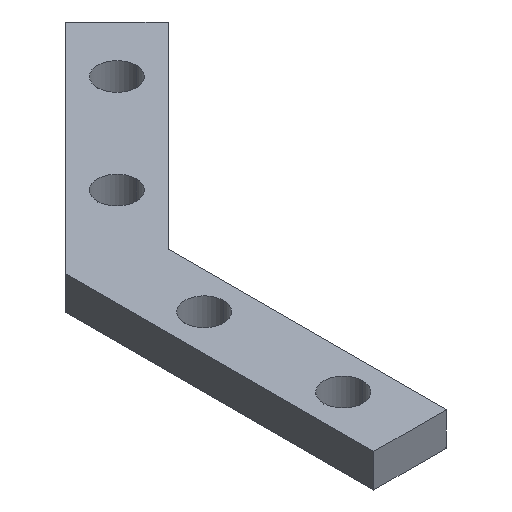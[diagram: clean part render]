
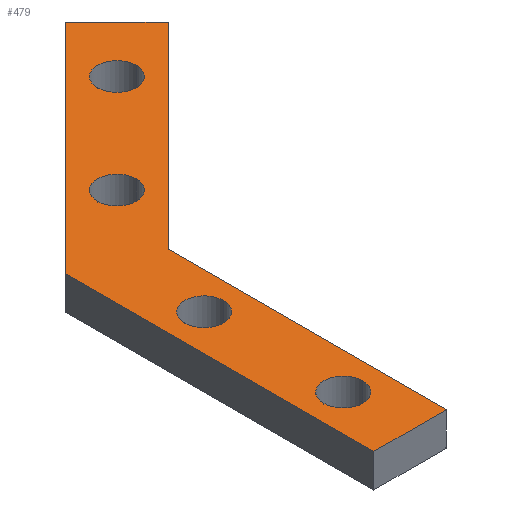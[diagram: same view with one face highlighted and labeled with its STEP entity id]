
A CAD part, isometric view. The second image highlights one B-rep face of the part: STEP entity #479.
In plain terms, the highlighted planar face has unit normal (0, 0, 1).
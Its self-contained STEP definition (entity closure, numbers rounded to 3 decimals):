
#3 = CIRCLE ( 'NONE', #210, 3.5 ) ;
#6 = DIRECTION ( 'NONE',  ( -0.707, 0.707, 0. ) ) ;
#17 = LINE ( 'NONE', #421, #113 ) ;
#22 = EDGE_LOOP ( 'NONE', ( #530, #434 ) ) ;
#25 = CARTESIAN_POINT ( 'NONE',  ( 25.274, 81.466, 6. ) ) ;
#26 = ORIENTED_EDGE ( 'NONE', *, *, #106, .F. ) ;
#27 = EDGE_CURVE ( 'NONE', #224, #63, #497, .T. ) ;
#28 = VERTEX_POINT ( 'NONE', #228 ) ;
#33 = CARTESIAN_POINT ( 'NONE',  ( 28.774, 81.466, 6. ) ) ;
#36 = CIRCLE ( 'NONE', #429, 3.5 ) ;
#45 = CARTESIAN_POINT ( 'NONE',  ( -6.5, 0., 6. ) ) ;
#46 = ORIENTED_EDGE ( 'NONE', *, *, #192, .F. ) ;
#47 = DIRECTION ( 'NONE',  ( 0., 0., 1. ) ) ;
#48 = FACE_BOUND ( 'NONE', #446, .T. ) ;
#50 = CARTESIAN_POINT ( 'NONE',  ( 0., 12., 6. ) ) ;
#63 = VERTEX_POINT ( 'NONE', #185 ) ;
#66 = AXIS2_PLACEMENT_3D ( 'NONE', #515, #247, #126 ) ;
#70 = CARTESIAN_POINT ( 'NONE',  ( -6.5, 0., 6. ) ) ;
#71 = DIRECTION ( 'NONE',  ( 0., 0., 1. ) ) ;
#77 = EDGE_CURVE ( 'NONE', #125, #224, #540, .T. ) ;
#89 = CARTESIAN_POINT ( 'NONE',  ( -6.5, 55.385, 6. ) ) ;
#92 = DIRECTION ( 'NONE',  ( 1., 0., 0. ) ) ;
#93 = ORIENTED_EDGE ( 'NONE', *, *, #204, .F. ) ;
#94 = DIRECTION ( 'NONE',  ( -0.707, -0.707, 0. ) ) ;
#100 = CIRCLE ( 'NONE', #536, 3.5 ) ;
#101 = VERTEX_POINT ( 'NONE', #284 ) ;
#106 = EDGE_CURVE ( 'NONE', #28, #535, #3, .T. ) ;
#113 = VECTOR ( 'NONE', #6, 1000. ) ;
#114 = DIRECTION ( 'NONE',  ( 0., 0., 1. ) ) ;
#121 = AXIS2_PLACEMENT_3D ( 'NONE', #376, #114, #460 ) ;
#122 = LINE ( 'NONE', #374, #485 ) ;
#123 = DIRECTION ( 'NONE',  ( 0., 0., 1. ) ) ;
#125 = VERTEX_POINT ( 'NONE', #89 ) ;
#126 = DIRECTION ( 'NONE',  ( 0., -1., 0. ) ) ;
#128 = CARTESIAN_POINT ( 'NONE',  ( 41.855, 85.355, 6. ) ) ;
#136 = VERTEX_POINT ( 'NONE', #128 ) ;
#137 = EDGE_CURVE ( 'NONE', #101, #215, #163, .T. ) ;
#141 = CIRCLE ( 'NONE', #355, 3.5 ) ;
#157 = DIRECTION ( 'NONE',  ( 0.707, 0.707, 0. ) ) ;
#160 = DIRECTION ( 'NONE',  ( 1., 0., 0. ) ) ;
#163 = CIRCLE ( 'NONE', #513, 3.5 ) ;
#164 = FACE_BOUND ( 'NONE', #430, .T. ) ;
#178 = EDGE_CURVE ( 'NONE', #136, #221, #17, .T. ) ;
#179 = VERTEX_POINT ( 'NONE', #470 ) ;
#185 = CARTESIAN_POINT ( 'NONE',  ( 6.5, 0., 6. ) ) ;
#186 = VERTEX_POINT ( 'NONE', #504 ) ;
#189 = VECTOR ( 'NONE', #231, 1000. ) ;
#192 = EDGE_CURVE ( 'NONE', #524, #186, #335, .T. ) ;
#196 = CARTESIAN_POINT ( 'NONE',  ( 41.855, 85.355, 6. ) ) ;
#201 = FACE_BOUND ( 'NONE', #22, .T. ) ;
#204 = EDGE_CURVE ( 'NONE', #186, #524, #36, .T. ) ;
#205 = CARTESIAN_POINT ( 'NONE',  ( 28.774, 81.466, 6. ) ) ;
#210 = AXIS2_PLACEMENT_3D ( 'NONE', #205, #123, #461 ) ;
#211 = DIRECTION ( 'NONE',  ( 1., 0., 0. ) ) ;
#215 = VERTEX_POINT ( 'NONE', #381 ) ;
#216 = EDGE_LOOP ( 'NONE', ( #246, #302, #502, #256, #303, #444 ) ) ;
#219 = EDGE_CURVE ( 'NONE', #462, #259, #235, .T. ) ;
#221 = VERTEX_POINT ( 'NONE', #415 ) ;
#224 = VERTEX_POINT ( 'NONE', #45 ) ;
#228 = CARTESIAN_POINT ( 'NONE',  ( 32.274, 81.466, 6. ) ) ;
#231 = DIRECTION ( 'NONE',  ( 0., -1., 0. ) ) ;
#234 = EDGE_CURVE ( 'NONE', #215, #101, #100, .T. ) ;
#235 = CIRCLE ( 'NONE', #121, 3.5 ) ;
#246 = ORIENTED_EDGE ( 'NONE', *, *, #77, .T. ) ;
#247 = DIRECTION ( 'NONE',  ( 0., 0., -1. ) ) ;
#248 = CARTESIAN_POINT ( 'NONE',  ( 0., 12., 6. ) ) ;
#254 = DIRECTION ( 'NONE',  ( 0., 1., 0. ) ) ;
#255 = DIRECTION ( 'NONE',  ( 0., 0., 1. ) ) ;
#256 = ORIENTED_EDGE ( 'NONE', *, *, #403, .T. ) ;
#259 = VERTEX_POINT ( 'NONE', #522 ) ;
#261 = ORIENTED_EDGE ( 'NONE', *, *, #313, .F. ) ;
#265 = VECTOR ( 'NONE', #455, 1000. ) ;
#284 = CARTESIAN_POINT ( 'NONE',  ( 7.596, 63.789, 6. ) ) ;
#291 = CARTESIAN_POINT ( 'NONE',  ( 32.663, 94.548, 6. ) ) ;
#302 = ORIENTED_EDGE ( 'NONE', *, *, #27, .T. ) ;
#303 = ORIENTED_EDGE ( 'NONE', *, *, #178, .T. ) ;
#311 = CARTESIAN_POINT ( 'NONE',  ( -6.5, 0., 6. ) ) ;
#313 = EDGE_CURVE ( 'NONE', #535, #28, #141, .T. ) ;
#315 = CARTESIAN_POINT ( 'NONE',  ( 0., 37., 6. ) ) ;
#317 = AXIS2_PLACEMENT_3D ( 'NONE', #315, #319, #501 ) ;
#319 = DIRECTION ( 'NONE',  ( 0., 0., 1. ) ) ;
#321 = DIRECTION ( 'NONE',  ( 1., 0., 0. ) ) ;
#323 = AXIS2_PLACEMENT_3D ( 'NONE', #50, #417, #92 ) ;
#324 = DIRECTION ( 'NONE',  ( 1., 0., 0. ) ) ;
#326 = LINE ( 'NONE', #196, #393 ) ;
#328 = CARTESIAN_POINT ( 'NONE',  ( 11.096, 63.789, 6. ) ) ;
#335 = CIRCLE ( 'NONE', #323, 3.5 ) ;
#336 = FACE_BOUND ( 'NONE', #400, .T. ) ;
#338 = VECTOR ( 'NONE', #94, 1000. ) ;
#349 = EDGE_CURVE ( 'NONE', #259, #462, #496, .T. ) ;
#355 = AXIS2_PLACEMENT_3D ( 'NONE', #33, #71, #321 ) ;
#372 = DIRECTION ( 'NONE',  ( 0., 0., 1. ) ) ;
#374 = CARTESIAN_POINT ( 'NONE',  ( 6.5, 0., 6. ) ) ;
#376 = CARTESIAN_POINT ( 'NONE',  ( 0., 37., 6. ) ) ;
#378 = FACE_OUTER_BOUND ( 'NONE', #216, .T. ) ;
#381 = CARTESIAN_POINT ( 'NONE',  ( 14.596, 63.789, 6. ) ) ;
#383 = ORIENTED_EDGE ( 'NONE', *, *, #349, .F. ) ;
#393 = VECTOR ( 'NONE', #157, 1000. ) ;
#394 = CARTESIAN_POINT ( 'NONE',  ( -3.5, 12., 6. ) ) ;
#400 = EDGE_LOOP ( 'NONE', ( #26, #261 ) ) ;
#403 = EDGE_CURVE ( 'NONE', #179, #136, #326, .T. ) ;
#411 = EDGE_CURVE ( 'NONE', #63, #179, #122, .T. ) ;
#415 = CARTESIAN_POINT ( 'NONE',  ( 32.663, 94.548, 6. ) ) ;
#417 = DIRECTION ( 'NONE',  ( 0., 0., 1. ) ) ;
#420 = LINE ( 'NONE', #291, #338 ) ;
#421 = CARTESIAN_POINT ( 'NONE',  ( 32.663, 94.548, 6. ) ) ;
#429 = AXIS2_PLACEMENT_3D ( 'NONE', #248, #47, #211 ) ;
#430 = EDGE_LOOP ( 'NONE', ( #383, #471 ) ) ;
#434 = ORIENTED_EDGE ( 'NONE', *, *, #137, .F. ) ;
#444 = ORIENTED_EDGE ( 'NONE', *, *, #487, .T. ) ;
#446 = EDGE_LOOP ( 'NONE', ( #93, #46 ) ) ;
#455 = DIRECTION ( 'NONE',  ( 1., 0., 0. ) ) ;
#460 = DIRECTION ( 'NONE',  ( 1., 0., 0. ) ) ;
#461 = DIRECTION ( 'NONE',  ( 1., 0., 0. ) ) ;
#462 = VERTEX_POINT ( 'NONE', #506 ) ;
#463 = PLANE ( 'NONE',  #66 ) ;
#468 = CARTESIAN_POINT ( 'NONE',  ( 11.096, 63.789, 6. ) ) ;
#470 = CARTESIAN_POINT ( 'NONE',  ( 6.5, 50., 6. ) ) ;
#471 = ORIENTED_EDGE ( 'NONE', *, *, #219, .F. ) ;
#479 = ADVANCED_FACE ( 'NONE', ( #378, #48, #164, #201, #336 ), #463, .F. ) ;
#485 = VECTOR ( 'NONE', #254, 1000. ) ;
#487 = EDGE_CURVE ( 'NONE', #221, #125, #420, .T. ) ;
#496 = CIRCLE ( 'NONE', #317, 3.5 ) ;
#497 = LINE ( 'NONE', #70, #265 ) ;
#501 = DIRECTION ( 'NONE',  ( 1., 0., 0. ) ) ;
#502 = ORIENTED_EDGE ( 'NONE', *, *, #411, .T. ) ;
#504 = CARTESIAN_POINT ( 'NONE',  ( 3.5, 12., 6. ) ) ;
#506 = CARTESIAN_POINT ( 'NONE',  ( -3.5, 37., 6. ) ) ;
#513 = AXIS2_PLACEMENT_3D ( 'NONE', #468, #255, #324 ) ;
#515 = CARTESIAN_POINT ( 'NONE',  ( -6.5, 0., 6. ) ) ;
#522 = CARTESIAN_POINT ( 'NONE',  ( 3.5, 37., 6. ) ) ;
#524 = VERTEX_POINT ( 'NONE', #394 ) ;
#530 = ORIENTED_EDGE ( 'NONE', *, *, #234, .F. ) ;
#535 = VERTEX_POINT ( 'NONE', #25 ) ;
#536 = AXIS2_PLACEMENT_3D ( 'NONE', #328, #372, #160 ) ;
#540 = LINE ( 'NONE', #311, #189 ) ;
